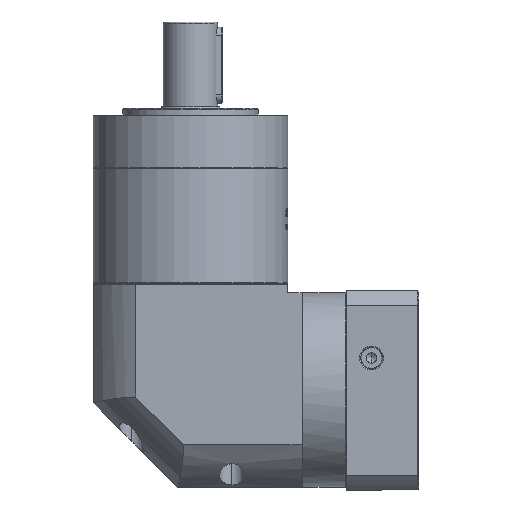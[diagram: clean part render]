
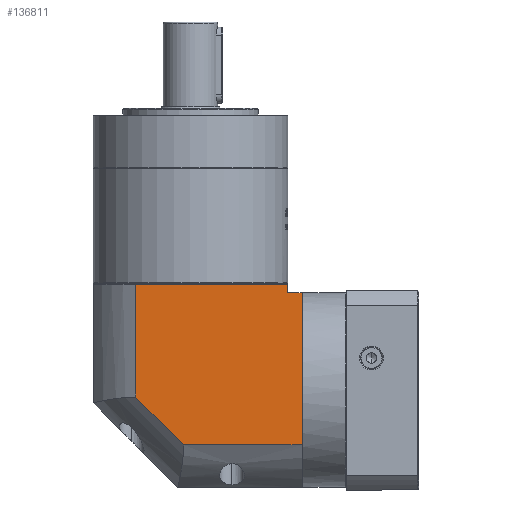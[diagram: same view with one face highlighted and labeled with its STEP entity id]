
A CAD part, left-side view. The second image highlights one B-rep face of the part: STEP entity #136811.
In plain terms, the highlighted planar face has unit normal (-1, 0, 0).
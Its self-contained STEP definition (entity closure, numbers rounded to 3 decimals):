
#2827 = ORIENTED_EDGE ( 'NONE', *, *, #141867, .F. ) ;
#3634 = DIRECTION ( 'NONE',  ( 0., 1., 0. ) ) ;
#4694 = CARTESIAN_POINT ( 'NONE',  ( -281.463, -21.197, 61.2 ) ) ;
#5565 = CARTESIAN_POINT ( 'NONE',  ( -281.463, -111.097, -65.3 ) ) ;
#10675 = VERTEX_POINT ( 'NONE', #22797 ) ;
#15303 = PLANE ( 'NONE',  #34989 ) ;
#22797 = CARTESIAN_POINT ( 'NONE',  ( -281.463, -119.497, -40.2 ) ) ;
#26356 = ORIENTED_EDGE ( 'NONE', *, *, #50064, .F. ) ;
#28631 = VECTOR ( 'NONE', #131281, 1000. ) ;
#29430 = DIRECTION ( 'NONE',  ( 0., -1., 0. ) ) ;
#30181 = EDGE_LOOP ( 'NONE', ( #57542, #135983, #26356, #36027, #99294, #73326, #2827 ) ) ;
#33209 = LINE ( 'NONE', #100794, #37570 ) ;
#34989 = AXIS2_PLACEMENT_3D ( 'NONE', #155280, #114799, #72416 ) ;
#35287 = VECTOR ( 'NONE', #29430, 1000. ) ;
#36027 = ORIENTED_EDGE ( 'NONE', *, *, #48428, .F. ) ;
#37570 = VECTOR ( 'NONE', #3634, 1000. ) ;
#40339 = CARTESIAN_POINT ( 'NONE',  ( -281.463, -119.497, 61.2 ) ) ;
#48428 = EDGE_CURVE ( 'NONE', #48988, #10675, #114134, .T. ) ;
#48988 = VERTEX_POINT ( 'NONE', #174649 ) ;
#50064 = EDGE_CURVE ( 'NONE', #10675, #52524, #56226, .T. ) ;
#52524 = VERTEX_POINT ( 'NONE', #130876 ) ;
#56226 = LINE ( 'NONE', #126780, #71710 ) ;
#57542 = ORIENTED_EDGE ( 'NONE', *, *, #94198, .F. ) ;
#63835 = LINE ( 'NONE', #171092, #35287 ) ;
#70313 = DIRECTION ( 'NONE',  ( 0., 1., 0. ) ) ;
#71710 = VECTOR ( 'NONE', #70313, 1000. ) ;
#72416 = DIRECTION ( 'NONE',  ( 0., 1., 0. ) ) ;
#73326 = ORIENTED_EDGE ( 'NONE', *, *, #89499, .T. ) ;
#73726 = CARTESIAN_POINT ( 'NONE',  ( -281.463, -21.197, 54.7 ) ) ;
#73832 = VECTOR ( 'NONE', #139820, 1000. ) ;
#82144 = DIRECTION ( 'NONE',  ( 0., 0., -1. ) ) ;
#82777 = CARTESIAN_POINT ( 'NONE',  ( -281.463, -49.535, -40.2 ) ) ;
#89499 = EDGE_CURVE ( 'NONE', #147840, #163063, #134295, .T. ) ;
#94198 = EDGE_CURVE ( 'NONE', #115077, #151021, #149412, .T. ) ;
#97017 = VECTOR ( 'NONE', #107028, 1000. ) ;
#99294 = ORIENTED_EDGE ( 'NONE', *, *, #163843, .T. ) ;
#99627 = CARTESIAN_POINT ( 'NONE',  ( -281.463, -111.097, 54.7 ) ) ;
#100794 = CARTESIAN_POINT ( 'NONE',  ( -281.463, -111.097, 49.7 ) ) ;
#100958 = VECTOR ( 'NONE', #82144, 1000. ) ;
#107028 = DIRECTION ( 'NONE',  ( 0., 0., 1. ) ) ;
#114134 = LINE ( 'NONE', #40339, #100958 ) ;
#114799 = DIRECTION ( 'NONE',  ( 1., 0., 0. ) ) ;
#115077 = VERTEX_POINT ( 'NONE', #128089 ) ;
#126780 = CARTESIAN_POINT ( 'NONE',  ( -281.463, 3.903, -40.2 ) ) ;
#128089 = CARTESIAN_POINT ( 'NONE',  ( -281.463, -21.197, -11.862 ) ) ;
#130876 = CARTESIAN_POINT ( 'NONE',  ( -281.463, -49.535, -40.2 ) ) ;
#131281 = DIRECTION ( 'NONE',  ( 0., 0., 1. ) ) ;
#134295 = LINE ( 'NONE', #5565, #97017 ) ;
#135983 = ORIENTED_EDGE ( 'NONE', *, *, #167877, .F. ) ;
#136811 = ADVANCED_FACE ( 'NONE', ( #141211 ), #15303, .F. ) ;
#139820 = DIRECTION ( 'NONE',  ( 0., 0.707, 0.707 ) ) ;
#141211 = FACE_OUTER_BOUND ( 'NONE', #30181, .T. ) ;
#141867 = EDGE_CURVE ( 'NONE', #151021, #163063, #63835, .T. ) ;
#147840 = VERTEX_POINT ( 'NONE', #181798 ) ;
#149412 = LINE ( 'NONE', #4694, #28631 ) ;
#151021 = VERTEX_POINT ( 'NONE', #73726 ) ;
#155280 = CARTESIAN_POINT ( 'NONE',  ( -281.463, 3.903, 61.2 ) ) ;
#163063 = VERTEX_POINT ( 'NONE', #99627 ) ;
#163843 = EDGE_CURVE ( 'NONE', #48988, #147840, #33209, .T. ) ;
#167877 = EDGE_CURVE ( 'NONE', #52524, #115077, #172604, .T. ) ;
#171092 = CARTESIAN_POINT ( 'NONE',  ( -281.463, 3.903, 54.7 ) ) ;
#172604 = LINE ( 'NONE', #82777, #73832 ) ;
#174649 = CARTESIAN_POINT ( 'NONE',  ( -281.463, -119.497, 49.7 ) ) ;
#181798 = CARTESIAN_POINT ( 'NONE',  ( -281.463, -111.097, 49.7 ) ) ;
